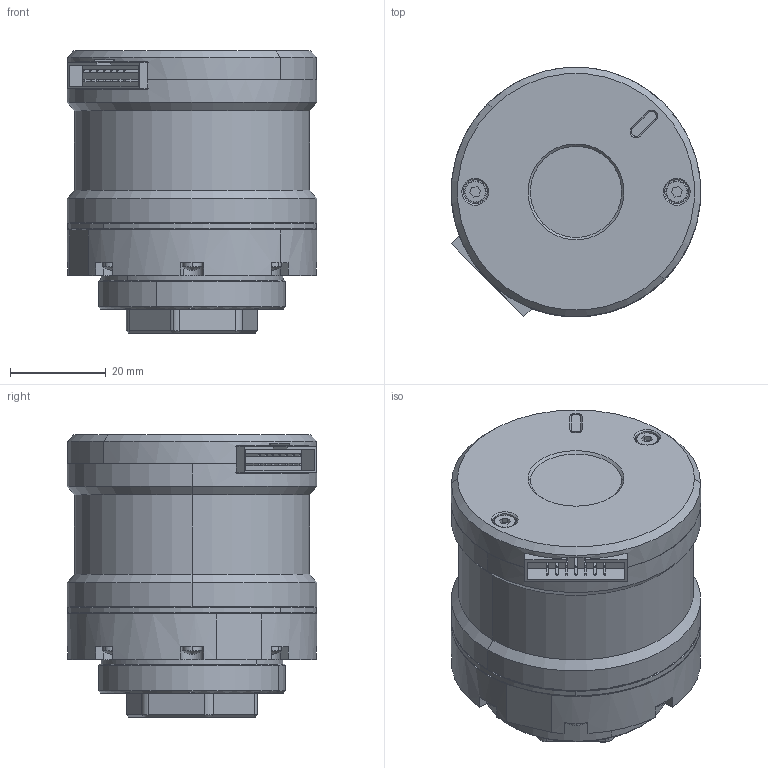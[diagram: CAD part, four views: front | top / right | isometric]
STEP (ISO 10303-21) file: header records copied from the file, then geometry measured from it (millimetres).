
FILE_DESCRIPTION (( 'STEP AP203' ), '1' );
FILE_NAME ('E30-H11-1B-100.STEP', '2021-10-09T02:51:36', ( 'lenovo' ), ( '' ), 'SwSTEP 2.0', 'SolidWorks 2016', '' );
FILE_SCHEMA (( 'CONFIG_CONTROL_DESIGN' ));
Length unit declared in the file: millimetre
Products named in the file (24): E30-H11_001; SHD-11A蝠脫粣創黑芛; 14郋俔渀釱; GB／T818-2000十字槽盘头螺钉M2×12; B-2.5-幗紩_蕼偞; NE30驱动控制面板; SHD-11-100_蕼偞; 2.5-幗紩_蕼偞; SHD-11-QDNE30_005; GB／T70．1-2000内六角圆柱头螺钉M2×10; M1.6-蹟隊_蕼偞; GB／T70．1-2000内六角圆柱头螺钉M2．5×6; E30-H11-1B-100; SHD-11A蝠脫粣創_蕼偞; GB／T70．1-2000内六角圆柱头螺钉M2．5×12; SHD-11-詩謫; QDNE30-2; E30-H11-1B_001; 40x1.5O型圈_預設; SHD-11A交叉轴承外圈; SHD-11-QDNE30_002; SHD-11-02_蕼偞; SHD-11A交叉轴承内圈; NE30萇繚啣
Assembly tree (89 placements, depth 4):
  E30-H11-1B-100
    QDNE30-2
      E30-H11-1B_001
      SHD-11-QDNE30_002
      NE30驱动控制面板
        NE30萇繚啣
        14郋俔渀釱
      SHD-11-QDNE30_005
      GB／T70．1-2000内六角圆柱头螺钉M2．5×6  x2
      GB／T70．1-2000内六角圆柱头螺钉M2．5×12  x2
    SHD-11-100_蕼偞
      SHD-11A蝠脫粣創_蕼偞
        SHD-11A交叉轴承外圈
        SHD-11A交叉轴承内圈
        SHD-11A蝠脫粣創黑芛
        B-2.5-幗紩_蕼偞  x24
        2.5-幗紩_蕼偞  x24
        M1.6-蹟隊_蕼偞
      SHD-11-詩謫
      M1.6-蹟隊_蕼偞  x4
      40x1.5O型圈_預設
      SHD-11-02_蕼偞
      E30-H11_001
      GB／T818-2000十字槽盘头螺钉M2×12  x8
    GB／T70．1-2000内六角圆柱头螺钉M2×10  x8
Bounding box: 52 x 52 x 58.79 mm (x, y, z)
Volume: 47004 mm3; surface area: 50066.8 mm2
Topology: 85 solids, 85 shells, 4425 faces, 11691 edges, 7494 vertices
Faces by surface type: cylinder 1998, plane 1244, bspline 520, cone 359, torus 288, sphere 16
Entity records: 140446 total; most frequent: CARTESIAN_POINT 49078, ORIENTED_EDGE 19798, DIRECTION 16300, EDGE_CURVE 9899, VERTEX_POINT 6486, AXIS2_PLACEMENT_3D 6318, EDGE_LOOP 3763, VECTOR 3664
